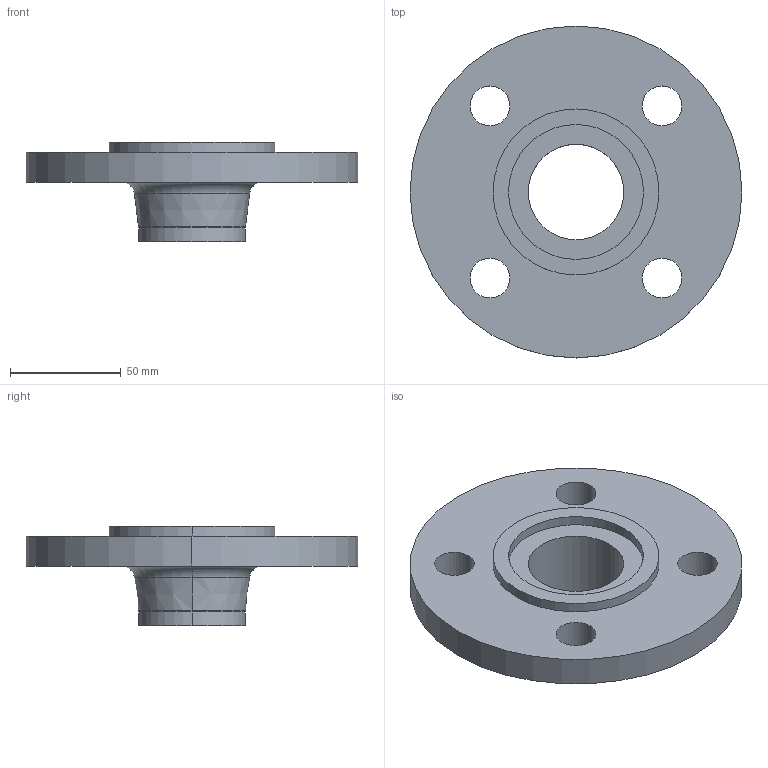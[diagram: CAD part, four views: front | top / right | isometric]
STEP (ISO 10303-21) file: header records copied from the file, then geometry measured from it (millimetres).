
FILE_DESCRIPTION (( 'STEP AP214' ), '1' );
FILE_NAME ('PN40 DN40 Type 11 - Type C Face.STEP', '2018-12-30T02:22:06', ( '' ), ( '' ), 'SwSTEP 2.0', 'SolidWorks 2019', '' );
FILE_SCHEMA (( 'AUTOMOTIVE_DESIGN' ));
Length unit declared in the file: millimetre
Products named in the file (1): PN40 DN40 Type 11 - Type C Face
Bounding box: 150 x 150 x 45 mm (x, y, z)
Volume: 227024.7 mm3; surface area: 50781.2 mm2
Topology: 1 solids, 1 shells, 29 faces, 66 edges, 42 vertices
Faces by surface type: cylinder 18, plane 5, torus 4, cone 2
Entity records: 892 total; most frequent: DIRECTION 172, CARTESIAN_POINT 138, ORIENTED_EDGE 132, AXIS2_PLACEMENT_3D 76, EDGE_CURVE 66, CIRCLE 46, VERTEX_POINT 42, EDGE_LOOP 42
